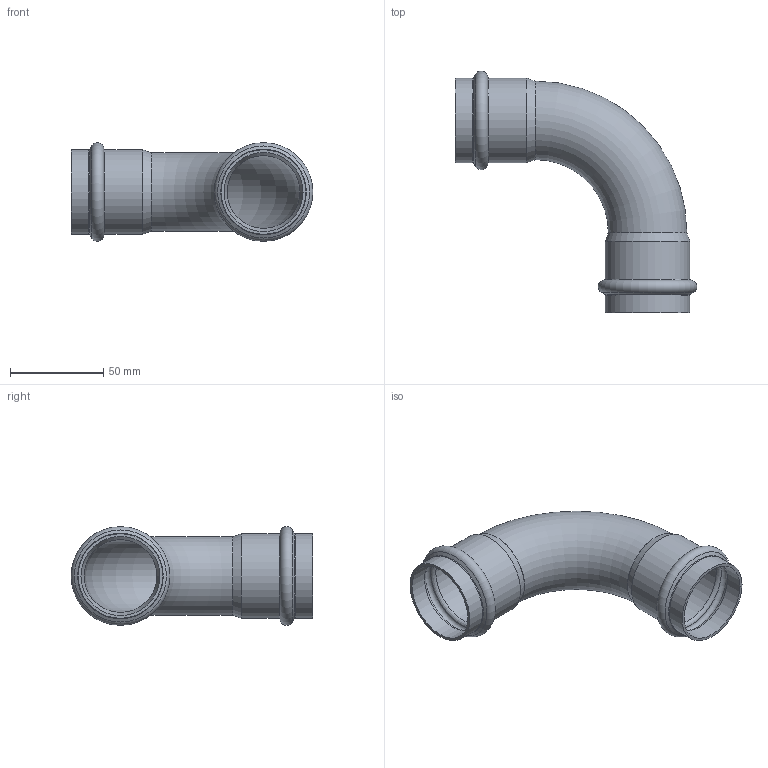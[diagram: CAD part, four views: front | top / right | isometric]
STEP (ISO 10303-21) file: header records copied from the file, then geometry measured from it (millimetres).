
FILE_DESCRIPTION((''),'2;1');
FILE_NAME('G:\Technics\CAD\Bauteile\042\69002A42(1).stp','2008-03-04T08:49:02',('herberg'),(''),'Autodesk Inventor 2008','Autodesk Inventor 2008','');
FILE_SCHEMA(('AUTOMOTIVE_DESIGN { 1 0 10303 214 1 1 1 1 }'));
Length unit declared in the file: millimetre
Products named in the file (1): 69002A42(1)
Bounding box: 129.4 x 129.4 x 52.8 mm (x, y, z)
Volume: 37805.1 mm3; surface area: 50821.8 mm2
Topology: 1 solids, 1 shells, 36 faces, 76 edges, 42 vertices
Faces by surface type: cylinder 12, cone 8, bspline 8, torus 6, plane 2
Full cylindrical faces by diameter (mm): 39 x2, 42 x2, 42.3 x4, 45.3 x4
Entity records: 1074 total; most frequent: CARTESIAN_POINT 461, DIRECTION 130, ORIENTED_EDGE 72, EDGE_LOOP 72, AXIS2_PLACEMENT_3D 65, VERTEX_POINT 36, CIRCLE 36, EDGE_CURVE 36
